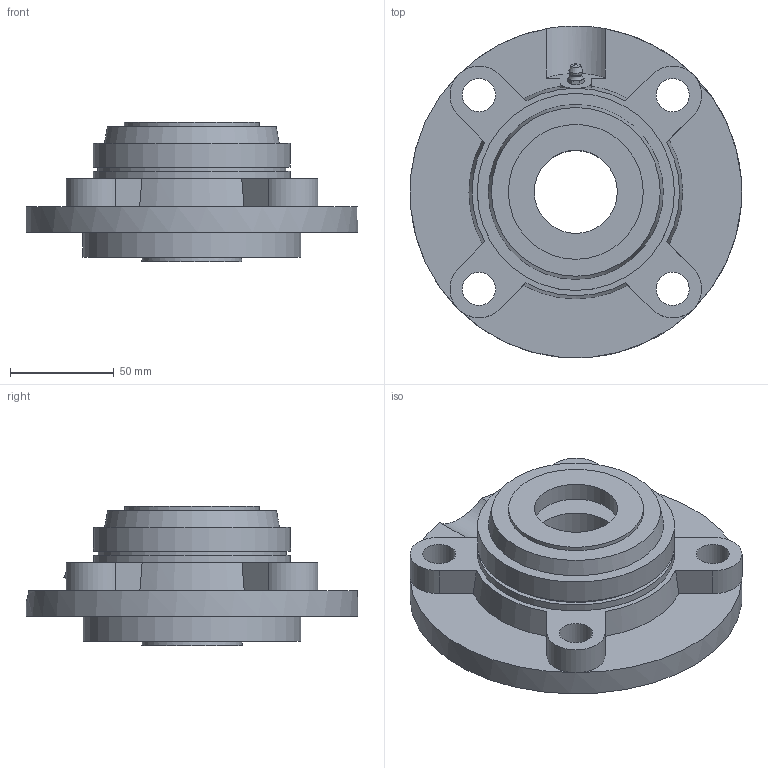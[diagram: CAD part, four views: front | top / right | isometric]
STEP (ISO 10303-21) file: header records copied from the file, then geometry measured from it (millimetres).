
FILE_DESCRIPTION((''),'2;1');
FILE_NAME('\\Ts-tgl068\j-cad-d-base\00.3DCADデータ作成フォルダ\02.フランジ形\UKFC200C(E)\UKFC209C+H.stp','2014-05-22T07:49:59',('btec_1106_2'),(''),'Autodesk Inventor 2012','Autodesk Inventor 2012','');
FILE_SCHEMA(('AUTOMOTIVE_DESIGN { 1 0 10303 214 1 1 1 1 }'));
Length unit declared in the file: millimetre
Products named in the file (5): UKFC200C+H; FC209C; UK209; GU1; 209CPA40
Assembly tree (4 placements, depth 2):
  UKFC200C+H
    FC209C
    UK209
    GU1
    209CPA40
Bounding box: 159.81 x 159.95 x 67 mm (x, y, z)
Volume: 410192.2 mm3; surface area: 121734.8 mm2
Topology: 4 solids, 4 shells, 204 faces, 517 edges, 337 vertices
Faces by surface type: plane 90, cylinder 55, cone 51, sphere 4, bspline 2, torus 2
Full cylindrical faces by diameter (mm): 5.359 x1, 6.35 x1, 16 x4, 40 x2, 57.3 x2, 65 x2, 89 x1, 90.6 x1, 93.4 x2, 95 x3, 105 x1, 160 x1
Entity records: 6080 total; most frequent: CARTESIAN_POINT 1381, ORIENTED_EDGE 948, DIRECTION 945, EDGE_CURVE 474, AXIS2_PLACEMENT_3D 394, VERTEX_POINT 324, EDGE_LOOP 269, FACE_OUTER_BOUND 204
